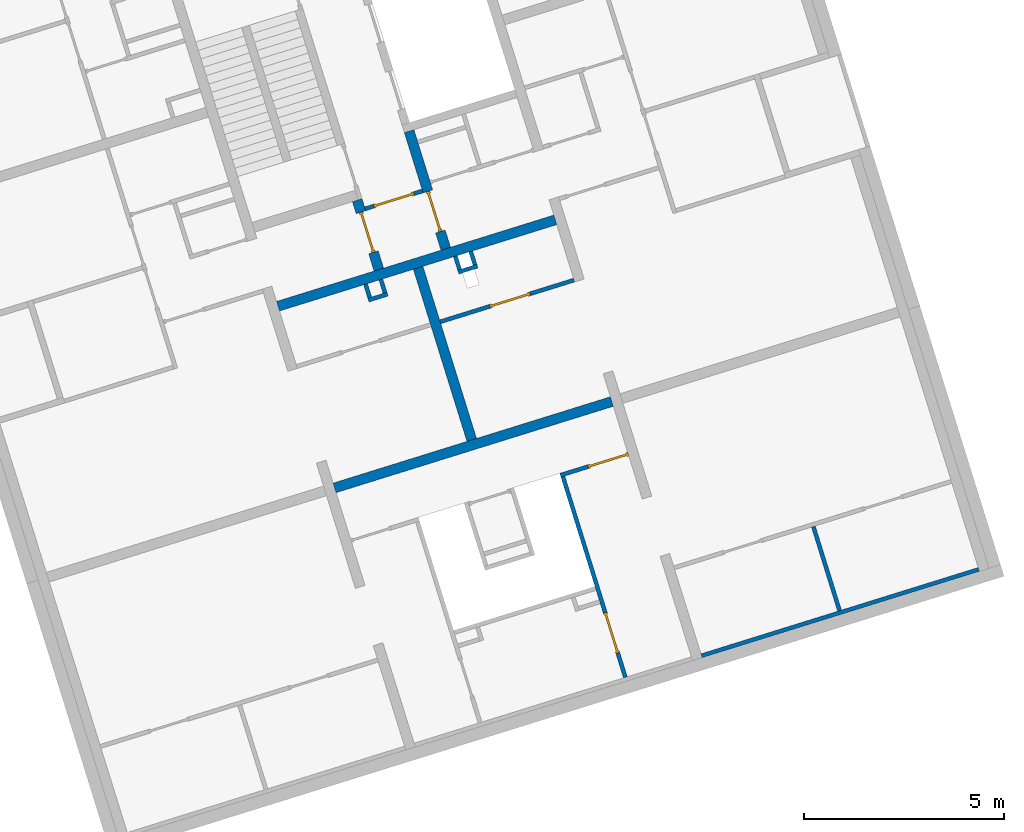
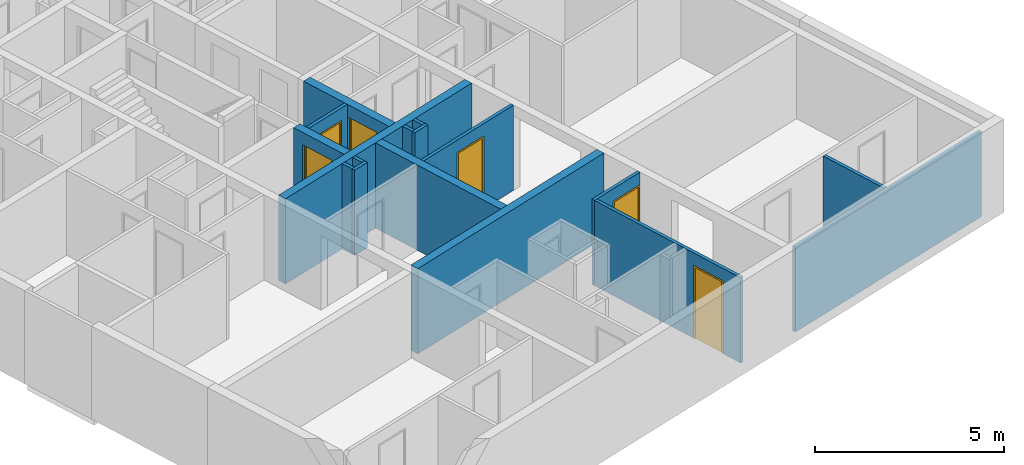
# One storey, part 3 of 12: 17 walls, 6 doors, 7 openings.
"""IFC4 building model written with IfcOpenShell, lengths in metres."""

from ifc_helpers import new_model, entity, si_unit, converted_unit, direction, frame, origin, place, context, subcontext, project, spatial, indexed_curve, outline, extrude, polygons, source, transform, mapped, material, constituent, constituent_set, type_object, type_shapes, element, fill, save


model = new_model("IFC4")

# Units and contexts
model_context = context("Model", 3, precision=1e-05, world=origin(), true_north=direction((6.12323399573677e-17, 1.0)))
body_context = subcontext(model_context, "Body", "Model", "MODEL_VIEW")
ifc_project = project(units=[si_unit("LENGTHUNIT", "METRE"), si_unit("AREAUNIT", "SQUARE_METRE"), converted_unit("PLANEANGLEUNIT", "DEGREE", entity("IfcPlaneAngleMeasure", 0.0174532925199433), si_unit("PLANEANGLEUNIT", "RADIAN"), dimensions=[0, 0, 0, 0, 0, 0, 0]), si_unit("VOLUMEUNIT", "CUBIC_METRE")], contexts=[model_context])

# Site, building, storey
site_placement = place(None, frame((13.1347999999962, 11.9886000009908, 0.0), z_axis=(0.0, 0.0, 1.0), x_axis=(0.954770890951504, 0.297342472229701, 0.0)))
site = spatial("IfcSite", under=ifc_project, at=site_placement, Name="Schiehaven", CompositionType="ELEMENT")
building_placement = place(site_placement, origin())
building = spatial("IfcBuilding", under=site, at=building_placement, Name="VORM huis", CompositionType="ELEMENT")
storey_placement = place(building_placement, frame((0.0, 0.0, 3.9)))
storey = spatial("IfcBuildingStorey", under=building, at=storey_placement, Name="01 eerste verdieping", CompositionType="ELEMENT", Elevation=3.9)

# Walls
ifc_material_1 = material(Name="beton_gewapend_ihw", Category="Miscellaneous")
wall_type_1 = type_object("IfcWallType", Name="Basic Wall:28_WA_skelet_wand 250mm_gen", PredefinedType="STANDARD")
wall_1_placement = place(storey_placement, frame((65.1250000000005, 11.9, 0.0)))
element("IfcWall", 1, at=wall_1_placement, inside=storey, type_object=wall_type_1, material=ifc_material_1, Name="Constructieve wand", ObjectType="Wand", PredefinedType="NOTDEFINED", context=body_context, shape_type="SweptSolid", body=[
    extrude(outline(indexed_curve([(7.24999999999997, 0.124999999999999), (1.55325075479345e-16, 0.125), (-1.55325075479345e-16, -0.125), (7.24999999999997, -0.125), (7.24999999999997, 0.124999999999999)], self_intersect=False)), origin(), (0.0, 0.0, 1.0), 2.75),
])
ifc_material_2 = material(Name="ntb_ntb_ntb", Category="Miscellaneous")
wall_type_2 = type_object("IfcWallType", Name="Basic Wall:21_WA_gevel_binnenspouwwand 100mm_gen", PredefinedType="STANDARD")
wall_2_placement = place(storey_placement, frame((79.8750000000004, 0.425000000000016, 0.0), z_axis=(0.0, 0.0, 1.0), x_axis=(-1.0, 0.0, 0.0)))
element("IfcWall", 2, at=wall_2_placement, inside=storey, type_object=wall_type_2, material=ifc_material_2, Name="Binnenspouwblad", ObjectType="Wand", PredefinedType="NOTDEFINED", context=body_context, shape_type="SweptSolid", body=[
    extrude(outline(indexed_curve([(7.24999999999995, 0.05), (1.85806403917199e-16, 0.05), (-1.85806403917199e-16, -0.05), (7.24999999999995, -0.05), (7.24999999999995, 0.05)], self_intersect=False)), origin(), (0.0, 0.0, 1.0), 2.75),
])
wall_type_3 = type_object("IfcWallType", Name="Basic Wall:22_WA_afbouw_binnenwand 250mm_gen", PredefinedType="STANDARD")
wall_3_placement = place(storey_placement, frame((68.7500000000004, 11.775, 0.0), z_axis=(0.0, 0.0, 1.0), x_axis=(0.0, -1.0, 0.0)))
element("IfcWall", 3, at=wall_3_placement, inside=storey, type_object=wall_type_3, material=ifc_material_2, Name="Binnenwand", ObjectType="Wand", PredefinedType="NOTDEFINED", context=body_context, shape_type="SweptSolid", body=[
    extrude(outline(indexed_curve([(4.49999999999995, 0.125000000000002), (3.71478537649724e-16, 0.124999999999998), (-3.71478537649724e-16, -0.124999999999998), (4.49999999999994, -0.124999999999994), (4.49999999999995, 0.125000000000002)], self_intersect=False)), origin(), (0.0, 0.0, 1.0), 2.75),
])

# Wall, opening, door
wall_4_placement = place(storey_placement, frame((67.8000000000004, 13.84, 0.0), z_axis=(0.0, 0.0, 1.0), x_axis=(0.0, -1.0, 0.0)))
wall_4 = element("IfcWall", 4, at=wall_4_placement, inside=storey, type_object=wall_type_3, material=ifc_material_2, Name="Binnenwand", ObjectType="Wand", PredefinedType="NOTDEFINED", context=body_context, shape_type="Tessellation", body=[
    polygons([(1.36500000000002, -0.125000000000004, 2.34999999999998), (1.36500000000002, -0.125000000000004, -5.41433564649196e-16), (1.815, -0.125000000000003, -5.41433564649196e-16), (1.815, -0.125000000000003, 2.75), (0.0, -0.125000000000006, 2.75), (0.0, -0.125000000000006, -5.41433564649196e-16), (0.315000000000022, -0.125000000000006, -5.41433564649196e-16), (0.315000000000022, -0.125000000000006, 2.34999999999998), (1.815, 0.12500000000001, -5.41433564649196e-16), (1.36500000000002, 0.125000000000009, -5.41433564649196e-16), (1.36500000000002, 0.125000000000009, 2.34999999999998), (0.315000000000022, 0.125000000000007, 2.34999999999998), (0.315000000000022, 0.125000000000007, -5.41433564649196e-16), (0.215000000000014, 0.124999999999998, 0.0), (0.0, 0.125000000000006, -5.41433564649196e-16), (0.0, 0.125000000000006, 2.75), (0.215000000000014, 0.124999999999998, 2.75), (0.315000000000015, 0.124999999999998, 2.75), (1.815, 0.12500000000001, 2.75), (0.0, 0.0250000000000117, 0.0), (0.0, 0.0250000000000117, 2.75)], [[[1, 2, 3, 4, 5, 6, 7, 8]], [[9, 10, 11, 12, 13, 14, 15, 16, 17, 18, 19]], [[7, 6, 20, 15, 14, 13]], [[4, 3, 9, 19]], [[5, 4, 19, 18, 17, 16, 21]], [[13, 12, 8, 7]], [[11, 10, 2, 1]], [[12, 11, 1, 8]], [[6, 5, 21, 16, 15, 20]], [[3, 2, 10, 9]]], closed=True),
])
opening_1_placement = place(wall_4_placement, frame((0.315000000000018, -0.124999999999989, 0.0)))
opening_1 = element("IfcOpeningElement", 5, at=opening_1_placement, cuts=wall_4, Name="Woningtoegangsdeur", PredefinedType="OPENING", context=body_context, shape_type="SweptSolid", body=[
    extrude(outline(indexed_curve([(2.34999999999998, 1.35358391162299e-15), (2.34999999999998, 1.05), (0.0, 1.05), (0.0, 1.35358391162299e-15), (2.34999999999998, 1.35358391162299e-15)], self_intersect=False)), frame((0.0, 0.0, 0.0), z_axis=(0.0, 1.0, 0.0), x_axis=(0.0, 0.0, 1.0)), (0.0, 0.0, 1.0), 0.25),
])
ifc_material_3 = material(Name="PD_a_binnenwandopeningen", Category="Miscellaneous")
ifc_constituent_1 = constituent(ifc_material_3, Name="PD_a_binnenwandopeningen", Category="Miscellaneous")
ifc_material_4 = material(Name="metaal_aluminium_ntb", Category="Miscellaneous")
ifc_constituent_2 = constituent(ifc_material_4, Name="metaal_aluminium_ntb", Category="Miscellaneous")
ifc_constituent_set_1 = constituent_set(constituents=[ifc_constituent_1, ifc_constituent_2])
ifc_constituent_3 = constituent(ifc_material_3, Name="PD_a_binnenwandopeningen", Category="Miscellaneous")
ifc_constituent_4 = constituent(ifc_material_4, Name="Panel", Category="Miscellaneous")
ifc_constituent_set_2 = constituent_set(constituents=[ifc_constituent_3, ifc_constituent_4])
door_type_1 = type_object("IfcDoorType", Name="32_DO_binnendeur enkel:woningtoegangsdeur", OperationType="REVOLVING", PredefinedType="DOOR", material=ifc_constituent_set_2)
shared_shape_1 = source(origin(), body_context, "Body", "SweptSolid", [
    extrude(outline(indexed_curve([(0.475, -1.16249999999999), (0.525000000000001, -1.16249999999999), (0.525000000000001, 1.18749999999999), (-0.525000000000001, 1.18749999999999), (-0.525000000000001, -1.16249999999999), (-0.475, -1.16249999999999), (-0.475, 1.13749999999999), (0.475, 1.13749999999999), (0.475, -1.16249999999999)], self_intersect=False)), frame((0.525000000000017, 0.174999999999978, 1.16249999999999), z_axis=(0.0, -1.0, 0.0), x_axis=(1.0, 0.0, 0.0)), (0.0, 0.0, 1.0), 0.1),
    extrude(outline(indexed_curve([(-0.475, -0.025), (0.475, -0.025), (0.475, 0.025), (-0.475, 0.025), (-0.475, -0.025)], self_intersect=False)), frame((0.525000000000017, 0.12499999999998, 0.0)), (0.0, 0.0, 1.0), 2.29999999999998),
])
type_shapes(door_type_1, [shared_shape_1])
door_1_placement = place(opening_1_placement, origin())
door_1 = element("IfcDoor", 6, at=door_1_placement, inside=storey, type_object=door_type_1, material=ifc_constituent_set_1, Name="Woningtoegangsdeur", ObjectType="Deur", OperationType="REVOLVING", OverallHeight=2.34999999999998, OverallWidth=1.05, PredefinedType="DOOR", context=body_context, shape_type="MappedRepresentation", body=[
    mapped(shared_shape_1, transform((0.0, 0.0, 0.0), scale=1.0)),
])
fill(opening_1, door_1)

wall_5_placement = place(storey_placement, frame((69.5500000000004, 15.1, 0.0), z_axis=(0.0, 0.0, 1.0), x_axis=(0.0, -1.0, 0.0)))
wall_5 = element("IfcWall", 7, at=wall_5_placement, inside=storey, type_object=wall_type_3, material=ifc_material_2, Name="Binnenwand", ObjectType="Wand", PredefinedType="NOTDEFINED", context=body_context, shape_type="Tessellation", body=[
    polygons([(2.625, -0.125000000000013, 2.34999999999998), (2.625, -0.125000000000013, -5.41433564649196e-16), (3.07499999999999, -0.125000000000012, -5.41433564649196e-16), (3.07499999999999, -0.125000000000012, 2.75), (1.57499999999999, -0.125000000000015, 2.75), (1.47499999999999, -0.125000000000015, 2.75), (0.0, -0.125000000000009, 2.75), (0.0, -0.125000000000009, -5.41433564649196e-16), (1.47499999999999, -0.125000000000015, 0.0), (1.575, -0.125000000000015, -5.41433564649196e-16), (1.575, -0.125000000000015, 2.34999999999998), (3.07499999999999, 0.124999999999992, -5.41433564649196e-16), (2.625, 0.124999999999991, -5.41433564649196e-16), (2.625, 0.124999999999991, 2.34999999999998), (1.575, 0.124999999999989, 2.34999999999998), (1.575, 0.124999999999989, -5.41433564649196e-16), (0.0, 0.124999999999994, -5.41433564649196e-16), (0.0, 0.124999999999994, 2.75), (3.07499999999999, 0.124999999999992, 2.75)], [[[1, 2, 3, 4, 5, 6, 7, 8, 9, 10, 11]], [[12, 13, 14, 15, 16, 17, 18, 19]], [[10, 9, 8, 17, 16]], [[4, 3, 12, 19]], [[7, 6, 5, 4, 19, 18]], [[8, 7, 18, 17]], [[16, 15, 11, 10]], [[14, 13, 2, 1]], [[15, 14, 1, 11]], [[3, 2, 13, 12]]], closed=True),
])
opening_2_placement = place(wall_5_placement, frame((2.625, 0.124999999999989, 0.0)))
opening_2 = element("IfcOpeningElement", 8, at=opening_2_placement, cuts=wall_5, Name="Woningtoegangsdeur", PredefinedType="OPENING", context=body_context, shape_type="SweptSolid", body=[
    extrude(outline(indexed_curve([(2.34999999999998, 1.05), (0.0, 1.05), (0.0, 1.08286712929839e-15), (2.34999999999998, 1.08286712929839e-15), (2.34999999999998, 1.05)], self_intersect=False)), frame((0.0, 0.0, 0.0), z_axis=(0.0, -1.0, 0.0), x_axis=(0.0, 0.0, 1.0)), (0.0, 0.0, 1.0), 0.25),
])
ifc_constituent_5 = constituent(ifc_material_3, Name="PD_a_binnenwandopeningen", Category="Miscellaneous")
ifc_constituent_6 = constituent(ifc_material_4, Name="metaal_aluminium_ntb", Category="Miscellaneous")
ifc_constituent_set_3 = constituent_set(constituents=[ifc_constituent_5, ifc_constituent_6])
ifc_constituent_7 = constituent(ifc_material_3, Name="PD_a_binnenwandopeningen", Category="Miscellaneous")
ifc_constituent_8 = constituent(ifc_material_4, Name="Panel", Category="Miscellaneous")
ifc_constituent_set_4 = constituent_set(constituents=[ifc_constituent_7, ifc_constituent_8])
door_type_2 = type_object("IfcDoorType", Name="32_DO_binnendeur enkel:woningtoegangsdeur", OperationType="REVOLVING", PredefinedType="DOOR", material=ifc_constituent_set_4)
shared_shape_2 = source(origin(), body_context, "Body", "SweptSolid", [
    extrude(outline(indexed_curve([(-1.16249999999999, -0.525000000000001), (1.18749999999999, -0.525), (1.18749999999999, 0.525000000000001), (-1.16249999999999, 0.525000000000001), (-1.16249999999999, 0.475), (1.13749999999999, 0.475), (1.13749999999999, -0.475), (-1.16249999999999, -0.475), (-1.16249999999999, -0.525000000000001)], self_intersect=False)), frame((0.525000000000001, 0.0749999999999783, 1.16249999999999), z_axis=(0.0, 1.0, 0.0), x_axis=(0.0, 0.0, 1.0)), (0.0, 0.0, 1.0), 0.1),
    extrude(outline(indexed_curve([(-0.025, -0.475), (0.025, -0.475), (0.025, 0.475), (-0.025, 0.475), (-0.025, -0.475)], self_intersect=False)), frame((0.525000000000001, 0.12499999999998, 0.0), z_axis=(0.0, 0.0, 1.0), x_axis=(0.0, 1.0, 0.0)), (0.0, 0.0, 1.0), 2.29999999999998),
])
type_shapes(door_type_2, [shared_shape_2])
door_2_placement = place(opening_2_placement, frame((0.0, 0.0, 0.0), z_axis=(0.0, 0.0, 1.0), x_axis=(-1.0, 0.0, 0.0)))
door_2 = element("IfcDoor", 9, at=door_2_placement, inside=storey, type_object=door_type_2, material=ifc_constituent_set_3, Name="Woningtoegangsdeur", ObjectType="Deur", OperationType="REVOLVING", OverallHeight=2.34999999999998, OverallWidth=1.05, PredefinedType="DOOR", context=body_context, shape_type="MappedRepresentation", body=[
    mapped(shared_shape_2, transform((0.0, 0.0, 0.0), scale=1.0)),
])
fill(opening_2, door_2)

# Wall
wall_6_placement = place(storey_placement, frame((72.3750000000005, 7.1500000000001, 0.0), z_axis=(0.0, 0.0, 1.0), x_axis=(-1.0, 0.0, 0.0)))
element("IfcWall", 10, at=wall_6_placement, inside=storey, type_object=wall_type_3, material=ifc_material_2, Name="Binnenwand", ObjectType="Wand", PredefinedType="NOTDEFINED", context=body_context, shape_type="SweptSolid", body=[
    extrude(outline(indexed_curve([(7.24999999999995, 0.125), (2.64740926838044e-16, 0.125), (-2.64740926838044e-16, -0.125), (7.24999999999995, -0.125), (7.24999999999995, 0.125)], self_intersect=False)), origin(), (0.0, 0.0, 1.0), 2.75),
])

# Wall, opening, door
wall_type_4 = type_object("IfcWallType", Name="Basic Wall:22_WA_afbouw_binnenwand 100mm_gen", PredefinedType="STANDARD")
wall_7_placement = place(storey_placement, frame((67.9250000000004, 13.575, 0.0)))
wall_7 = element("IfcWall", 11, at=wall_7_placement, inside=storey, type_object=wall_type_4, material=ifc_material_2, Name="Binnenwand", ObjectType="Wand", PredefinedType="NOTDEFINED", context=body_context, shape_type="Tessellation", body=[
    polygons([(1.50000000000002, -0.0500000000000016, 2.75), (6.75517154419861e-15, -0.0500000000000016, 2.75), (-1.90776549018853e-15, -0.0500000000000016, 2.34999999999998), (6.75517154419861e-15, -0.0500000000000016, -5.41433564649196e-16), (0.22499999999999, -0.0500000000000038, -5.41433564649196e-16), (0.22499999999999, -0.0500000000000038, 2.34999999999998), (1.27499999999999, -0.0500000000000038, 2.34999999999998), (1.27499999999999, -0.0500000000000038, -5.41433564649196e-16), (1.50000000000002, -0.0500000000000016, -5.41433564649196e-16), (1.50000000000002, -0.0500000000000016, 2.34999999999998), (7.57373284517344e-15, 0.0499999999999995, 2.75), (1.50000000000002, 0.0499999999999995, 2.75), (1.50000000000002, 0.0499999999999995, -5.41433564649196e-16), (1.275, 0.0499999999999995, -5.41433564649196e-16), (1.275, 0.0499999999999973, 2.34999999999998), (0.224999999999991, 0.0499999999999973, 2.34999999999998), (0.224999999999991, 0.0499999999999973, -5.41433564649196e-16), (7.57373284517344e-15, 0.0499999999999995, -5.41433564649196e-16)], [[[1, 2, 3, 4, 5, 6, 7, 8, 9, 10]], [[11, 12, 13, 14, 15, 16, 17, 18]], [[4, 18, 17, 5]], [[2, 1, 12, 11]], [[16, 6, 5, 17]], [[6, 16, 15, 7]], [[7, 15, 14, 8]], [[4, 3, 2, 11, 18]], [[1, 10, 9, 13, 12]], [[13, 9, 8, 14]]], closed=True),
])
opening_3_placement = place(wall_7_placement, frame((0.225000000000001, -0.0499999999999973, 0.0)))
opening_3 = element("IfcOpeningElement", 12, at=opening_3_placement, cuts=wall_7, Name="Vluchtdeur", PredefinedType="OPENING", context=body_context, shape_type="SweptSolid", body=[
    extrude(outline(indexed_curve([(2.34999999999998, 1.05), (0.0, 1.05), (0.0, 0.0), (2.34999999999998, 0.0), (2.34999999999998, 1.05)], self_intersect=False)), frame((0.0, 0.0, 0.0), z_axis=(0.0, 1.0, 0.0), x_axis=(0.0, 0.0, 1.0)), (0.0, 0.0, 1.0), 0.1),
])
ifc_constituent_9 = constituent(ifc_material_3, Name="PD_a_binnenwandopeningen", Category="Miscellaneous")
ifc_constituent_10 = constituent(ifc_material_4, Name="metaal_aluminium_ntb", Category="Miscellaneous")
ifc_constituent_set_5 = constituent_set(constituents=[ifc_constituent_9, ifc_constituent_10])
ifc_constituent_11 = constituent(ifc_material_3, Name="PD_a_binnenwandopeningen", Category="Miscellaneous")
ifc_constituent_12 = constituent(ifc_material_4, Name="Panel", Category="Miscellaneous")
ifc_constituent_set_6 = constituent_set(constituents=[ifc_constituent_11, ifc_constituent_12])
door_type_3 = type_object("IfcDoorType", Name="32_DO_binnendeur enkel:binnendeur zelfsluitend 30min", OperationType="NOTDEFINED", PredefinedType="DOOR", material=ifc_constituent_set_6)
shared_shape_3 = source(origin(), body_context, "Body", "SweptSolid", [
    extrude(outline(indexed_curve([(-1.16249999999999, -0.525000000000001), (1.18749999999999, -0.525), (1.18749999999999, 0.525), (-1.16249999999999, 0.525), (-1.16249999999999, 0.475), (1.13749999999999, 0.475), (1.13749999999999, -0.475), (-1.16249999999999, -0.475), (-1.16249999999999, -0.525000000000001)], self_intersect=False)), frame((0.525000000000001, 0.0, 1.16249999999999), z_axis=(0.0, 1.0, 0.0), x_axis=(0.0, 0.0, 1.0)), (0.0, 0.0, 1.0), 0.1),
    extrude(outline(indexed_curve([(-0.025, -0.475), (0.025, -0.475), (0.025, 0.475), (-0.025, 0.475), (-0.025, -0.475)], self_intersect=False)), frame((0.525000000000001, 0.0499999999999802, 0.0), z_axis=(0.0, 0.0, 1.0), x_axis=(0.0, 1.0, 0.0)), (0.0, 0.0, 1.0), 2.29999999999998),
])
type_shapes(door_type_3, [shared_shape_3])
door_3_placement = place(opening_3_placement, origin())
door_3 = element("IfcDoor", 13, at=door_3_placement, inside=storey, type_object=door_type_3, material=ifc_constituent_set_5, Name="Vluchtdeur", ObjectType="Deur", OperationType="NOTDEFINED", OverallHeight=2.34999999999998, OverallWidth=1.05, PredefinedType="DOOR", context=body_context, shape_type="MappedRepresentation", body=[
    mapped(shared_shape_3, transform((0.0, 0.0, 0.0), scale=1.0)),
])
fill(opening_3, door_3)

wall_8_placement = place(storey_placement, frame((68.875, 10.3249999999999, 0.0)))
wall_8 = element("IfcWall", 14, at=wall_8_placement, inside=storey, type_object=wall_type_4, material=ifc_material_2, Name="Binnenwand", ObjectType="Wand", PredefinedType="NOTDEFINED", context=body_context, shape_type="Tessellation", body=[
    polygons([(3.50000000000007, -0.0499999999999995, -5.41433564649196e-16), (3.50000000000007, -0.0499999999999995, 2.75), (-3.50175570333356e-15, -0.0499999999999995, 2.75), (-3.50175570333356e-15, -0.0499999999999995, -5.41433564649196e-16), (1.29999999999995, -0.0499999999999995, -5.41433564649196e-16), (1.29999999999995, -0.0499999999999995, 2.34999999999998), (2.34999999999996, -0.0500000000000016, 2.34999999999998), (2.34999999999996, -0.0500000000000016, -5.41433564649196e-16), (3.50000000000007, 0.0499999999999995, 2.75), (3.50000000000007, 0.0499999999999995, -5.41433564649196e-16), (2.34999999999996, 0.0499999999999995, -5.41433564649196e-16), (2.34999999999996, 0.0499999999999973, 2.34999999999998), (1.29999999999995, 0.0499999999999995, 2.34999999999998), (1.29999999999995, 0.0499999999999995, -5.41433564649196e-16), (-3.45152522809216e-15, 0.0499999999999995, -5.41433564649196e-16), (-3.45152522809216e-15, 0.0499999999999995, 2.75)], [[[1, 2, 3, 4, 5, 6, 7, 8]], [[9, 10, 11, 12, 13, 14, 15, 16]], [[4, 15, 14, 5]], [[2, 1, 10, 9]], [[3, 2, 9, 16]], [[4, 3, 16, 15]], [[7, 12, 11, 8]], [[13, 6, 5, 14]], [[12, 7, 6, 13]], [[10, 1, 8, 11]]], closed=True),
])
opening_4_placement = place(wall_8_placement, frame((2.34999999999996, 0.05, 0.0)))
opening_4 = element("IfcOpeningElement", 15, at=opening_4_placement, cuts=wall_8, Name="Binnendeur", PredefinedType="OPENING", context=body_context, shape_type="SweptSolid", body=[
    extrude(outline(indexed_curve([(2.34999999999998, 2.67715204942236e-31), (2.34999999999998, 1.05), (0.0, 1.05), (0.0, 2.67715204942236e-31), (2.34999999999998, 2.67715204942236e-31)], self_intersect=False)), frame((0.0, 0.0, 0.0), z_axis=(0.0, -1.0, 0.0), x_axis=(0.0, 0.0, 1.0)), (0.0, 0.0, 1.0), 0.1),
])
ifc_constituent_13 = constituent(ifc_material_3, Name="PD_a_binnenwandopeningen", Category="Miscellaneous")
ifc_constituent_14 = constituent(ifc_material_4, Name="metaal_aluminium_ntb", Category="Miscellaneous")
ifc_constituent_set_7 = constituent_set(constituents=[ifc_constituent_13, ifc_constituent_14])
ifc_constituent_15 = constituent(ifc_material_3, Name="PD_a_binnenwandopeningen", Category="Miscellaneous")
ifc_constituent_16 = constituent(ifc_material_4, Name="Panel", Category="Miscellaneous")
ifc_constituent_set_8 = constituent_set(constituents=[ifc_constituent_15, ifc_constituent_16])
door_type_4 = type_object("IfcDoorType", Name="32_DO_binnendeur enkel:binnendeur", OperationType="REVOLVING", PredefinedType="DOOR", material=ifc_constituent_set_8)
shared_shape_4 = source(origin(), body_context, "Body", "SweptSolid", [
    extrude(outline(indexed_curve([(0.475, -1.16249999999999), (0.525, -1.16249999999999), (0.525, 1.18749999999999), (-0.525, 1.18749999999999), (-0.525, -1.16249999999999), (-0.475, -1.16249999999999), (-0.475, 1.13749999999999), (0.475, 1.13749999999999), (0.475, -1.16249999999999)], self_intersect=False)), frame((0.525000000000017, 0.100000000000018, 1.16249999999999), z_axis=(0.0, -1.0, 0.0), x_axis=(1.0, 0.0, 0.0)), (0.0, 0.0, 1.0), 0.1),
    extrude(outline(indexed_curve([(-0.475, -0.025), (0.475, -0.025), (0.475, 0.025), (-0.475, 0.025), (-0.475, -0.025)], self_intersect=False)), frame((0.525000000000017, 0.0499999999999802, 0.0)), (0.0, 0.0, 1.0), 2.29999999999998),
])
type_shapes(door_type_4, [shared_shape_4])
door_4_placement = place(opening_4_placement, frame((0.0, 0.0, 0.0), z_axis=(0.0, 0.0, 1.0), x_axis=(-1.0, 0.0, 0.0)))
door_4 = element("IfcDoor", 16, at=door_4_placement, inside=storey, type_object=door_type_4, material=ifc_constituent_set_7, Name="Binnendeur", ObjectType="Deur", OperationType="REVOLVING", OverallHeight=2.34999999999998, OverallWidth=1.05, PredefinedType="DOOR", context=body_context, shape_type="MappedRepresentation", body=[
    mapped(shared_shape_4, transform((0.0, 0.0, 0.0), scale=1.0)),
])
fill(opening_4, door_4)

# Walls
wall_9_placement = place(storey_placement, frame((70.125, 11.7749999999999, 0.0), z_axis=(0.0, 0.0, 1.0), x_axis=(0.0, -1.0, 0.0)))
element("IfcWall", 17, at=wall_9_placement, inside=storey, type_object=wall_type_4, material=ifc_material_2, Name="Binnenwand", ObjectType="Wand", PredefinedType="NOTDEFINED", context=body_context, shape_type="SweptSolid", body=[
    extrude(outline(indexed_curve([(0.350000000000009, 0.0499999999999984), (-1.60519127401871e-16, 0.0499999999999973), (1.60519127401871e-16, -0.0499999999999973), (0.350000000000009, -0.0499999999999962), (0.350000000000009, 0.0499999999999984)], self_intersect=False)), origin(), (0.0, 0.0, 1.0), 2.75),
])
wall_10_placement = place(storey_placement, frame((69.725, 11.7749999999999, 0.0), z_axis=(0.0, 0.0, 1.0), x_axis=(0.0, -1.0, 0.0)))
element("IfcWall", 18, at=wall_10_placement, inside=storey, type_object=wall_type_4, material=ifc_material_2, Name="Binnenwand", ObjectType="Wand", PredefinedType="NOTDEFINED", context=body_context, shape_type="SweptSolid", body=[
    extrude(outline(indexed_curve([(0.350000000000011, 0.0499999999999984), (-1.60519127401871e-16, 0.0499999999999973), (1.60519127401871e-16, -0.0499999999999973), (0.350000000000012, -0.0499999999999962), (0.350000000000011, 0.0499999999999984)], self_intersect=False)), origin(), (0.0, 0.0, 1.0), 2.75),
])
wall_11_placement = place(storey_placement, frame((69.675, 11.3749999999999, 0.0)))
element("IfcWall", 19, at=wall_11_placement, inside=storey, type_object=wall_type_4, material=ifc_material_2, Name="Binnenwand", ObjectType="Wand", PredefinedType="NOTDEFINED", context=body_context, shape_type="SweptSolid", body=[
    extrude(outline(indexed_curve([(0.499999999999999, 0.0499999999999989), (4.91040023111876e-16, 0.0499999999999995), (-4.91040023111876e-16, -0.0499999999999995), (0.499999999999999, -0.05), (0.499999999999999, 0.0499999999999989)], self_intersect=False)), origin(), (0.0, 0.0, 1.0), 2.75),
])
wall_12_placement = place(storey_placement, frame((67.375, 11.7749999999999, 0.0), z_axis=(0.0, 0.0, 1.0), x_axis=(0.0, -1.0, 0.0)))
element("IfcWall", 20, at=wall_12_placement, inside=storey, type_object=wall_type_4, material=ifc_material_2, Name="Binnenwand", ObjectType="Wand", PredefinedType="NOTDEFINED", context=body_context, shape_type="SweptSolid", body=[
    extrude(outline(indexed_curve([(0.350000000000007, 0.0499999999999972), (1.27396132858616e-17, 0.0499999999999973), (-1.27396132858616e-17, -0.0499999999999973), (0.350000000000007, -0.0499999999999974), (0.350000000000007, 0.0499999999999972)], self_intersect=False)), origin(), (0.0, 0.0, 1.0), 2.75),
])
wall_13_placement = place(storey_placement, frame((67.775, 11.7749999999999, 0.0), z_axis=(0.0, 0.0, 1.0), x_axis=(0.0, -1.0, 0.0)))
element("IfcWall", 21, at=wall_13_placement, inside=storey, type_object=wall_type_4, material=ifc_material_2, Name="Binnenwand", ObjectType="Wand", PredefinedType="NOTDEFINED", context=body_context, shape_type="SweptSolid", body=[
    extrude(outline(indexed_curve([(0.350000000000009, 0.0499999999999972), (1.27396132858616e-17, 0.0499999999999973), (-1.27396132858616e-17, -0.0499999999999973), (0.350000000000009, -0.0499999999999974), (0.350000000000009, 0.0499999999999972)], self_intersect=False)), origin(), (0.0, 0.0, 1.0), 2.75),
])
wall_14_placement = place(storey_placement, frame((67.825, 11.3749999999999, 0.0), z_axis=(0.0, 0.0, 1.0), x_axis=(-1.0, 0.0, 0.0)))
element("IfcWall", 22, at=wall_14_placement, inside=storey, type_object=wall_type_4, material=ifc_material_2, Name="Binnenwand", ObjectType="Wand", PredefinedType="NOTDEFINED", context=body_context, shape_type="SweptSolid", body=[
    extrude(outline(indexed_curve([(0.49999999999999, 0.0499999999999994), (-6.38819537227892e-16, 0.0499999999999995), (6.38819537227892e-16, -0.0499999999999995), (0.499999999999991, -0.0499999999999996), (0.49999999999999, 0.0499999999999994)], self_intersect=False)), origin(), (0.0, 0.0, 1.0), 2.75),
])
wall_15_placement = place(storey_placement, frame((76.2499999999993, 0.474999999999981, 0.0), z_axis=(0.0, 0.0, 1.0), x_axis=(0.0, 1.0, 0.0)))
element("IfcWall", 23, at=wall_15_placement, inside=storey, type_object=wall_type_4, material=ifc_material_2, Name="Binnenwand", ObjectType="Wand", PredefinedType="NOTDEFINED", context=body_context, shape_type="SweptSolid", body=[
    extrude(outline(indexed_curve([(2.20000000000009, 0.0499999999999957), (-2.45112657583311e-17, 0.0499999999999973), (2.45112657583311e-17, -0.0499999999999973), (2.20000000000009, -0.0499999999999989), (2.20000000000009, 0.0499999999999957)], self_intersect=False)), origin(), (0.0, 0.0, 1.0), 2.75),
])

# Wall, opening, door
wall_16_placement = place(storey_placement, frame((72.3750000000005, 5.77500000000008, 0.0), z_axis=(0.0, 0.0, 1.0), x_axis=(-1.0, 0.0, 0.0)))
wall_16 = element("IfcWall", 24, at=wall_16_placement, inside=storey, type_object=wall_type_4, material=ifc_material_2, Name="Binnenwand", ObjectType="Wand", PredefinedType="NOTDEFINED", context=body_context, shape_type="Tessellation", body=[
    polygons([(1.77500000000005, -0.0499999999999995, 2.75), (-1.17703915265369e-14, -0.0499999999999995, 2.75), (-1.17703915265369e-14, -0.0499999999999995, 2.34999999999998), (1.04999999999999, -0.0500000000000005, 2.34999999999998), (1.04999999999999, -0.0500000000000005, 0.0), (1.77500000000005, -0.0499999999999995, 0.0), (-1.17170446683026e-14, 0.0500000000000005, 2.75), (1.67500000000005, 0.0500000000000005, 2.75), (1.77500000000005, 0.0500000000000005, 2.75), (1.77500000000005, 0.0500000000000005, 0.0), (1.67500000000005, 0.0500000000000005, 5.41433564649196e-16), (1.04999999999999, 0.0499999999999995, 0.0), (1.04999999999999, 0.0499999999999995, 2.34999999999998), (-1.17170446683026e-14, 0.0500000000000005, 2.34999999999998)], [[[1, 2, 3, 4, 5, 6]], [[7, 8, 9, 10, 11, 12, 13, 14]], [[10, 6, 5, 12, 11]], [[2, 1, 9, 8, 7]], [[2, 7, 14, 3]], [[1, 6, 10, 9]], [[4, 13, 12, 5]], [[13, 4, 3, 14]]], closed=True),
])
opening_5_placement = place(wall_16_placement, frame((1.05, 0.0500000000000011, 0.0)))
opening_5 = element("IfcOpeningElement", 25, at=opening_5_placement, cuts=wall_16, Name="Binnendeur", PredefinedType="OPENING", context=body_context, shape_type="SweptSolid", body=[
    extrude(outline(indexed_curve([(2.34999999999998, 2.97863977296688e-31), (2.34999999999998, 1.05), (0.0, 1.05), (0.0, 2.97863977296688e-31), (2.34999999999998, 2.97863977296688e-31)], self_intersect=False)), frame((0.0, 0.0, 0.0), z_axis=(0.0, -1.0, 0.0), x_axis=(0.0, 0.0, 1.0)), (0.0, 0.0, 1.0), 0.1),
])
ifc_constituent_17 = constituent(ifc_material_3, Name="PD_a_binnenwandopeningen", Category="Miscellaneous")
ifc_constituent_18 = constituent(ifc_material_4, Name="metaal_aluminium_ntb", Category="Miscellaneous")
ifc_constituent_set_9 = constituent_set(constituents=[ifc_constituent_17, ifc_constituent_18])
door_5_placement = place(opening_5_placement, frame((0.0, 0.0, 0.0), z_axis=(0.0, 0.0, 1.0), x_axis=(-1.0, 0.0, 0.0)))
door_5 = element("IfcDoor", 26, at=door_5_placement, inside=storey, type_object=door_type_4, material=ifc_constituent_set_9, Name="Binnendeur", ObjectType="Deur", OperationType="REVOLVING", OverallHeight=2.34999999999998, OverallWidth=1.05, PredefinedType="DOOR", context=body_context, shape_type="MappedRepresentation", body=[
    mapped(shared_shape_4, transform((0.0, 0.0, 0.0), scale=1.0)),
])
fill(opening_5, door_5)

# Wall, openings, door
wall_17_placement = place(storey_placement, frame((70.6500000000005, 5.72500000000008, 0.0), z_axis=(0.0, 0.0, 1.0), x_axis=(0.0, -1.0, 0.0)))
wall_17 = element("IfcWall", 27, at=wall_17_placement, inside=storey, type_object=wall_type_4, material=ifc_material_2, Name="Binnenwand", ObjectType="Wand", PredefinedType="NOTDEFINED", context=body_context, shape_type="Tessellation", body=[
    polygons([(0.0, -0.0500000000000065, 0.0), (2.86, -0.0500000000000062, 5.41433564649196e-16), (2.96, -0.0500000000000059, 5.41433564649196e-16), (3.21, -0.0500000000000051, 5.41433564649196e-16), (3.31, -0.0500000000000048, 5.41433564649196e-16), (3.56, -0.0499999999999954, 0.0), (3.56, -0.0499999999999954, 2.34999999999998), (4.61, -0.0500000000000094, 2.34999999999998), (4.61, -0.0500000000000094, 0.0), (5.25000000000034, -0.0500000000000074, 0.0), (5.25000000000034, -0.0500000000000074, 2.75), (3.31, -0.0500000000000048, 2.75), (3.21, -0.0500000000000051, 2.75), (2.96, -0.0500000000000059, 2.75), (2.86, -0.0500000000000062, 2.75), (0.0, -0.0500000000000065, 2.75), (3.56, 0.0499999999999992, 2.34999999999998), (3.56, 0.0499999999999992, 0.0), (0.0, 0.0499999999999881, 0.0), (0.0, 0.0499999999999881, 2.75), (5.25000000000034, 0.0499999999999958, 2.75), (5.25000000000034, 0.0499999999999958, 0.0), (4.61, 0.0499999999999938, 0.0), (4.61, 0.0499999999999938, 2.34999999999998)], [[[1, 2, 3, 4, 5, 6, 7, 8, 9, 10, 11, 12, 13, 14, 15, 16]], [[17, 18, 19, 20, 21, 22, 23, 24]], [[19, 18, 6, 5, 4, 3, 2, 1]], [[11, 10, 22, 21]], [[16, 15, 14, 13, 12, 11, 21, 20]], [[1, 16, 20, 19]], [[9, 8, 24, 23]], [[7, 6, 18, 17]], [[8, 7, 17, 24]], [[23, 22, 10, 9]]], closed=True),
])
opening_6_placement = place(wall_17_placement, frame((3.56, -0.0499999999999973, 0.0)))
opening_6 = element("IfcOpeningElement", 28, at=opening_6_placement, cuts=wall_17, Name="Binnendeur", PredefinedType="OPENING", context=body_context, shape_type="SweptSolid", body=[
    extrude(outline(indexed_curve([(2.34999999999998, 1.05), (0.0, 1.05), (0.0, 0.0), (2.34999999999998, 0.0), (2.34999999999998, 1.05)], self_intersect=False)), frame((0.0, 0.0, 0.0), z_axis=(0.0, 1.0, 0.0), x_axis=(0.0, 0.0, 1.0)), (0.0, 0.0, 1.0), 0.1),
])
opening_7_placement = place(wall_17_placement, frame((5.72500000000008, -70.6500000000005, 0.0), z_axis=(0.0, 0.0, 1.0), x_axis=(0.0, 1.0, 0.0)))
element("IfcOpeningElement", 29, at=opening_7_placement, cuts=wall_17, Name="Binnendeur", PredefinedType="OPENING", context=body_context, shape_type="SweptSolid", body=[
    extrude(outline(indexed_curve([(-1.17499999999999, -0.525), (1.17499999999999, -0.525000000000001), (1.17499999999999, 0.525000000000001), (-1.17499999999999, 0.525000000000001), (-1.17499999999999, -0.525)], self_intersect=False)), frame((69.0760000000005, 1.64000000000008, 1.17499999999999), z_axis=(1.0, 0.0, 0.0), x_axis=(0.0, 0.0, -1.0)), (0.0, 0.0, 1.0), 3.048),
])
ifc_constituent_19 = constituent(ifc_material_3, Name="PD_a_binnenwandopeningen", Category="Miscellaneous")
ifc_constituent_20 = constituent(ifc_material_4, Name="metaal_aluminium_ntb", Category="Miscellaneous")
ifc_constituent_set_10 = constituent_set(constituents=[ifc_constituent_19, ifc_constituent_20])
ifc_constituent_21 = constituent(ifc_material_3, Name="PD_a_binnenwandopeningen", Category="Miscellaneous")
ifc_constituent_22 = constituent(ifc_material_4, Name="Panel", Category="Miscellaneous")
ifc_constituent_set_11 = constituent_set(constituents=[ifc_constituent_21, ifc_constituent_22])
door_type_5 = type_object("IfcDoorType", Name="32_DO_binnendeur enkel:binnendeur", OperationType="REVOLVING", PredefinedType="DOOR", material=ifc_constituent_set_11)
shared_shape_5 = source(origin(), body_context, "Body", "SweptSolid", [
    extrude(outline(indexed_curve([(-1.16249999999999, -0.525000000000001), (1.18749999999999, -0.525), (1.18749999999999, 0.525), (-1.16249999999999, 0.525), (-1.16249999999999, 0.475), (1.13749999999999, 0.475), (1.13749999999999, -0.475), (-1.16249999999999, -0.475), (-1.16249999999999, -0.525000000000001)], self_intersect=False)), frame((0.525000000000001, 0.0, 1.16249999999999), z_axis=(0.0, 1.0, 0.0), x_axis=(0.0, 0.0, 1.0)), (0.0, 0.0, 1.0), 0.1),
    extrude(outline(indexed_curve([(-0.025, -0.475), (0.025, -0.475), (0.025, 0.475), (-0.025, 0.475), (-0.025, -0.475)], self_intersect=False)), frame((0.525000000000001, 0.0499999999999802, 0.0), z_axis=(0.0, 0.0, 1.0), x_axis=(0.0, 1.0, 0.0)), (0.0, 0.0, 1.0), 2.29999999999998),
])
type_shapes(door_type_5, [shared_shape_5])
door_6_placement = place(opening_6_placement, origin())
door_6 = element("IfcDoor", 30, at=door_6_placement, inside=storey, type_object=door_type_5, material=ifc_constituent_set_10, Name="Binnendeur", ObjectType="Deur", OperationType="REVOLVING", OverallHeight=2.34999999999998, OverallWidth=1.05, PredefinedType="DOOR", context=body_context, shape_type="MappedRepresentation", body=[
    mapped(shared_shape_5, transform((0.0, 0.0, 0.0), scale=1.0)),
])
fill(opening_6, door_6)

save(model, "model.ifc")
